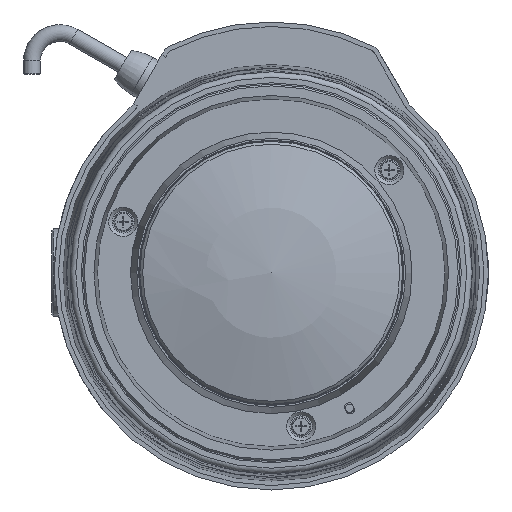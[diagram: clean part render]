
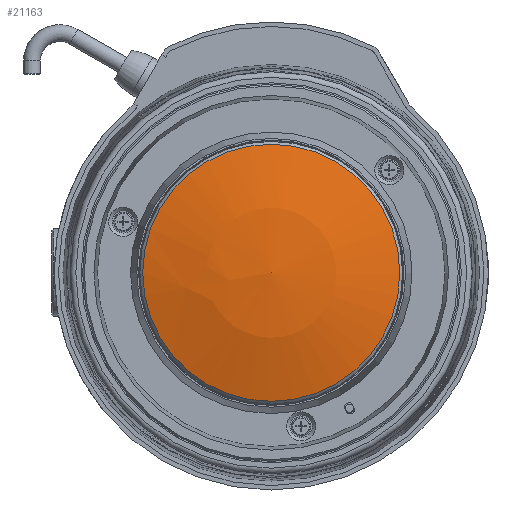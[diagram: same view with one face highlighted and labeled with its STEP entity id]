
A CAD part, front view. The second image highlights one B-rep face of the part: STEP entity #21163.
In plain terms, the highlighted spherical face has radius 78.648 mm.
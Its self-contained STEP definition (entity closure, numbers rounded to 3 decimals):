
#104=SPHERICAL_SURFACE('',#22545,78.648);
#626=CIRCLE('',#22534,23.);
#6242=ORIENTED_EDGE('',*,*,#9007,.T.);
#9007=EDGE_CURVE('',#10627,#10627,#626,.T.);
#10627=VERTEX_POINT('',#33267);
#11923=EDGE_LOOP('',(#6242));
#13119=FACE_BOUND('',#11923,.T.);
#21163=ADVANCED_FACE('',(#13119),#104,.T.);
#22534=AXIS2_PLACEMENT_3D('',#33266,#25883,#25884);
#22545=AXIS2_PLACEMENT_3D('',#33283,#25905,#25906);
#25883=DIRECTION('',(0.,-1.,0.));
#25884=DIRECTION('',(0.985,0.,0.174));
#25905=DIRECTION('',(0.,-1.,0.));
#25906=DIRECTION('',(-0.985,0.,-0.174));
#33266=CARTESIAN_POINT('',(0.,-113.306,0.));
#33267=CARTESIAN_POINT('',(22.651,-113.306,3.994));
#33283=CARTESIAN_POINT('',(0.,-38.096,0.));
